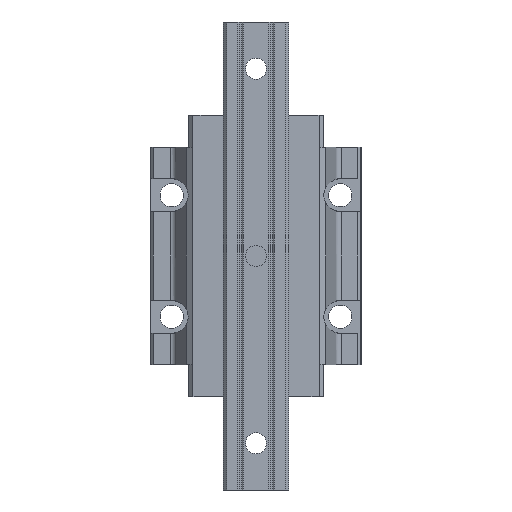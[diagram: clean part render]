
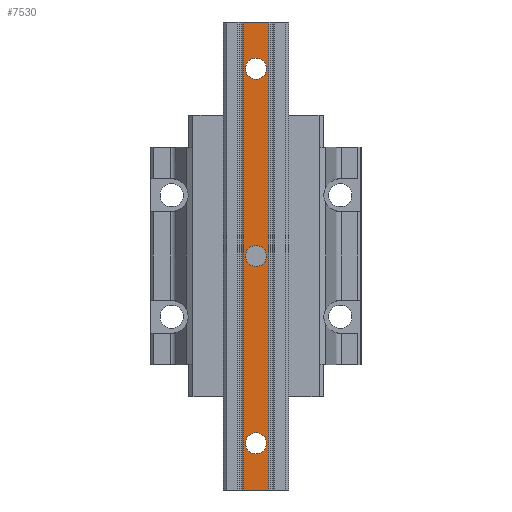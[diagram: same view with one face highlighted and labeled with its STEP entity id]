
A CAD part, front view. The second image highlights one B-rep face of the part: STEP entity #7530.
In plain terms, the highlighted planar face has unit normal (0, -1, 0).
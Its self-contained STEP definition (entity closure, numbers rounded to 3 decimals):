
#6184=DIRECTION('',(1.,0.,0.));
#6185=VECTOR('',#6184,11.1);
#6186=CARTESIAN_POINT('',(-5.55,-26.,-100.));
#6187=LINE('',#6186,#6185);
#6368=DIRECTION('',(0.,0.,1.));
#6369=VECTOR('',#6368,200.);
#6370=CARTESIAN_POINT('',(5.55,-26.,-100.));
#6371=LINE('',#6370,#6369);
#6372=DIRECTION('',(0.,0.,1.));
#6373=VECTOR('',#6372,200.);
#6374=CARTESIAN_POINT('',(-5.55,-26.,-100.));
#6375=LINE('',#6374,#6373);
#6376=DIRECTION('',(1.,0.,0.));
#6377=VECTOR('',#6376,11.1);
#6378=CARTESIAN_POINT('',(-5.55,-26.,100.));
#6379=LINE('',#6378,#6377);
#6380=CARTESIAN_POINT('',(0.,-26.,0.));
#6381=DIRECTION('',(0.,-1.,0.));
#6382=DIRECTION('',(1.,0.,0.));
#6383=AXIS2_PLACEMENT_3D('',#6380,#6381,#6382);
#6385=CARTESIAN_POINT('',(0.,-26.,0.));
#6386=DIRECTION('',(0.,-1.,0.));
#6387=DIRECTION('',(-1.,0.,0.));
#6388=AXIS2_PLACEMENT_3D('',#6385,#6386,#6387);
#6390=CARTESIAN_POINT('',(0.,-26.,80.));
#6391=DIRECTION('',(0.,-1.,0.));
#6392=DIRECTION('',(1.,0.,0.));
#6393=AXIS2_PLACEMENT_3D('',#6390,#6391,#6392);
#6395=CARTESIAN_POINT('',(0.,-26.,80.));
#6396=DIRECTION('',(0.,-1.,0.));
#6397=DIRECTION('',(-1.,0.,0.));
#6398=AXIS2_PLACEMENT_3D('',#6395,#6396,#6397);
#6400=CARTESIAN_POINT('',(0.,-26.,-80.));
#6401=DIRECTION('',(0.,-1.,0.));
#6402=DIRECTION('',(1.,0.,0.));
#6403=AXIS2_PLACEMENT_3D('',#6400,#6401,#6402);
#6405=CARTESIAN_POINT('',(0.,-26.,-80.));
#6406=DIRECTION('',(0.,-1.,0.));
#6407=DIRECTION('',(-1.,0.,0.));
#6408=AXIS2_PLACEMENT_3D('',#6405,#6406,#6407);
#6922=CARTESIAN_POINT('',(-5.55,-26.,-100.));
#6923=VERTEX_POINT('',#6922);
#6924=CARTESIAN_POINT('',(5.55,-26.,-100.));
#6925=VERTEX_POINT('',#6924);
#7002=CARTESIAN_POINT('',(5.55,-26.,100.));
#7003=VERTEX_POINT('',#7002);
#7004=CARTESIAN_POINT('',(-5.55,-26.,100.));
#7005=VERTEX_POINT('',#7004);
#7006=CARTESIAN_POINT('',(4.5,-26.,0.));
#7007=CARTESIAN_POINT('',(-4.5,-26.,0.));
#7008=VERTEX_POINT('',#7006);
#7009=VERTEX_POINT('',#7007);
#7010=CARTESIAN_POINT('',(4.5,-26.,80.));
#7011=CARTESIAN_POINT('',(-4.5,-26.,80.));
#7012=VERTEX_POINT('',#7010);
#7013=VERTEX_POINT('',#7011);
#7014=CARTESIAN_POINT('',(4.5,-26.,-80.));
#7015=CARTESIAN_POINT('',(-4.5,-26.,-80.));
#7016=VERTEX_POINT('',#7014);
#7017=VERTEX_POINT('',#7015);
#7499=CARTESIAN_POINT('',(-5.55,-26.,-100.));
#7500=DIRECTION('',(0.,-1.,0.));
#7501=DIRECTION('',(1.,0.,0.));
#7502=AXIS2_PLACEMENT_3D('',#7499,#7500,#7501);
#7503=PLANE('',#7502);
#7504=ORIENTED_EDGE('',*,*,#7175,.F.);
#7506=ORIENTED_EDGE('',*,*,#7505,.T.);
#7508=ORIENTED_EDGE('',*,*,#7507,.T.);
#7509=ORIENTED_EDGE('',*,*,#7491,.F.);
#7510=EDGE_LOOP('',(#7504,#7506,#7508,#7509));
#7511=FACE_OUTER_BOUND('',#7510,.F.);
#7513=ORIENTED_EDGE('',*,*,#7512,.T.);
#7515=ORIENTED_EDGE('',*,*,#7514,.T.);
#7516=EDGE_LOOP('',(#7513,#7515));
#7517=FACE_BOUND('',#7516,.F.);
#7519=ORIENTED_EDGE('',*,*,#7518,.T.);
#7521=ORIENTED_EDGE('',*,*,#7520,.T.);
#7522=EDGE_LOOP('',(#7519,#7521));
#7523=FACE_BOUND('',#7522,.F.);
#7525=ORIENTED_EDGE('',*,*,#7524,.T.);
#7527=ORIENTED_EDGE('',*,*,#7526,.T.);
#7528=EDGE_LOOP('',(#7525,#7527));
#7529=FACE_BOUND('',#7528,.F.);
#7530=ADVANCED_FACE('',(#7511,#7517,#7523,#7529),#7503,.T.);
#6384=CIRCLE('',#6383,4.5);
#6389=CIRCLE('',#6388,4.5);
#6394=CIRCLE('',#6393,4.5);
#6399=CIRCLE('',#6398,4.5);
#6404=CIRCLE('',#6403,4.5);
#6409=CIRCLE('',#6408,4.5);
#7175=EDGE_CURVE('',#6923,#6925,#6187,.T.);
#7491=EDGE_CURVE('',#6925,#7003,#6371,.T.);
#7505=EDGE_CURVE('',#6923,#7005,#6375,.T.);
#7507=EDGE_CURVE('',#7005,#7003,#6379,.T.);
#7512=EDGE_CURVE('',#7008,#7009,#6384,.T.);
#7514=EDGE_CURVE('',#7009,#7008,#6389,.T.);
#7518=EDGE_CURVE('',#7012,#7013,#6394,.T.);
#7520=EDGE_CURVE('',#7013,#7012,#6399,.T.);
#7524=EDGE_CURVE('',#7016,#7017,#6404,.T.);
#7526=EDGE_CURVE('',#7017,#7016,#6409,.T.);
